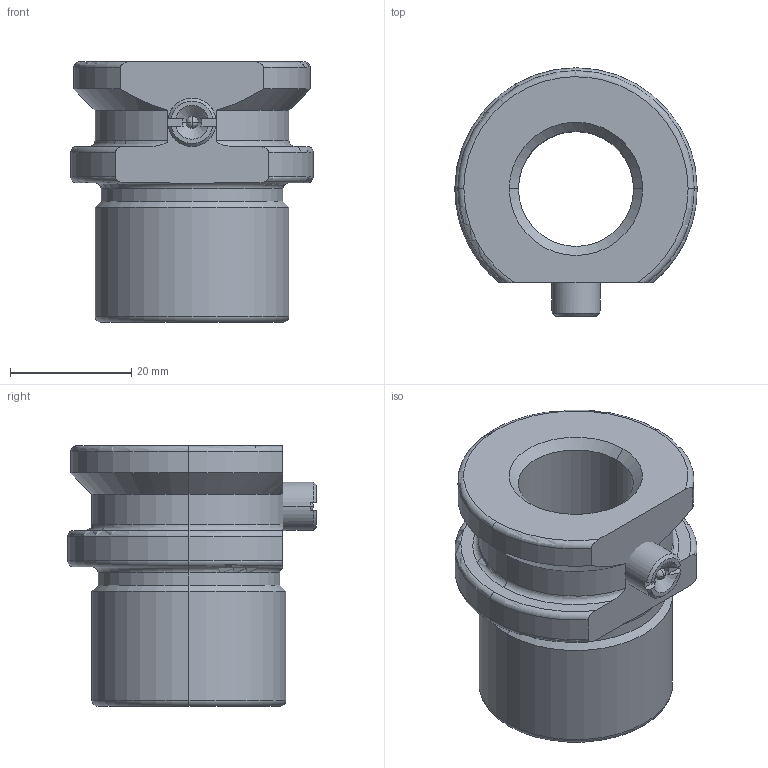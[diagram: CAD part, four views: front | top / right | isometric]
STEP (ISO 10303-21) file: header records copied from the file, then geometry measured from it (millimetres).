
FILE_DESCRIPTION(('CATIA V5 STEP Exchange'),'2;1');
FILE_NAME('C:\Users\Utente\Desktop\IO LAVORO\3D X SITO CF\X SITO\744\744-19.stp','2020-12-23T21:26:27+00:00',('none'),('none'),'CATIA Version 5 Release 20 GA (IN-10)','CATIA V5 STEP AP203','none');
FILE_SCHEMA(('CONFIG_CONTROL_DESIGN'));
Length unit declared in the file: millimetre
Products named in the file (1): 744-19
Bounding box: 40 x 41 x 43 mm (x, y, z)
Volume: 26358.3 mm3; surface area: 9584.1 mm2
Topology: 2 solids, 2 shells, 73 faces, 179 edges, 107 vertices
Faces by surface type: cylinder 19, torus 18, cone 17, plane 15, sphere 4
Entity records: 2436 total; most frequent: CARTESIAN_POINT 771, ORIENTED_EDGE 350, DIRECTION 289, EDGE_CURVE 175, AXIS2_PLACEMENT_3D 164, VERTEX_POINT 107, CIRCLE 90, EDGE_LOOP 78
